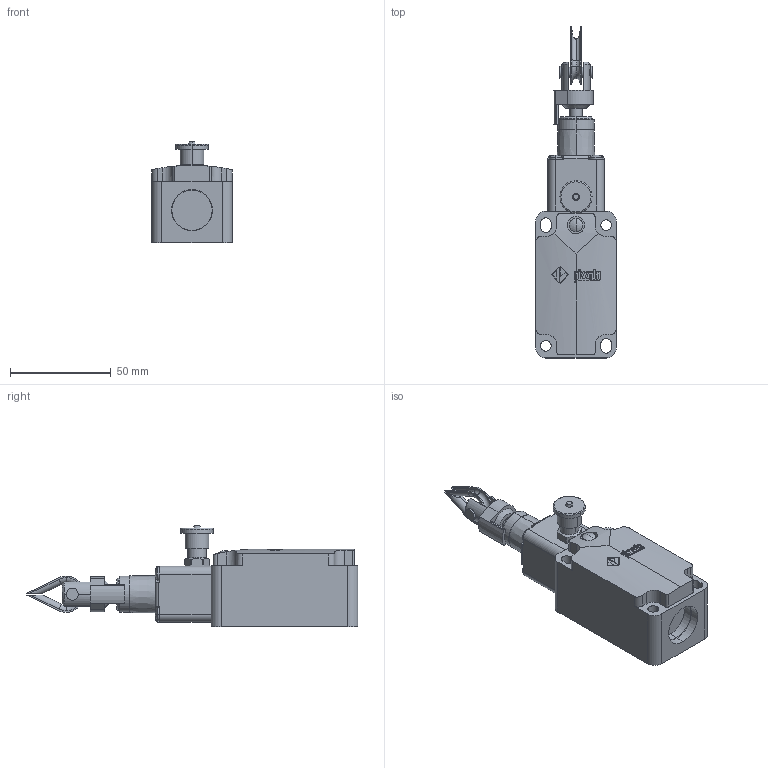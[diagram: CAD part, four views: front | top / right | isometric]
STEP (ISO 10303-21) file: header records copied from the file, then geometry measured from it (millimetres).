
FILE_DESCRIPTION (( 'STEP AP214' ), '1' );
FILE_NAME ('ZF_STEP_FP_x78.step', '2015-05-14T14:39:27', ( 'utente' ), ( 'Microsoft' ), 'SwSTEP 2.0', 'SolidWorks 2014', '' );
FILE_SCHEMA (( 'AUTOMOTIVE_DESIGN' ));
Length unit declared in the file: millimetre
Products named in the file (6): ZF_STEP_VF_T78; Pizzato_Redance_T78-83-84; Pizzato_Tirante_T78_T79; Pizzato_Supporto_T78-T79_T78; Pizzato_Custodia_FP; ZF_STEP_FP_x78
Assembly tree (5 placements, depth 3):
  ZF_STEP_FP_x78
    Pizzato_Custodia_FP
    ZF_STEP_VF_T78
      Pizzato_Supporto_T78-T79_T78
      Pizzato_Tirante_T78_T79
      Pizzato_Redance_T78-83-84
Bounding box: 40 x 165 x 50.5 mm (x, y, z)
Volume: 130939.2 mm3; surface area: 28332.8 mm2
Topology: 4 solids, 4 shells, 525 faces, 1369 edges, 906 vertices
Faces by surface type: plane 264, cylinder 127, bspline 97, torus 16, cone 11, sphere 10
Entity records: 21557 total; most frequent: CARTESIAN_POINT 8929, ORIENTED_EDGE 2738, DIRECTION 2290, EDGE_CURVE 1369, VERTEX_POINT 906, VECTOR 766, LINE 766, AXIS2_PLACEMENT_3D 762
